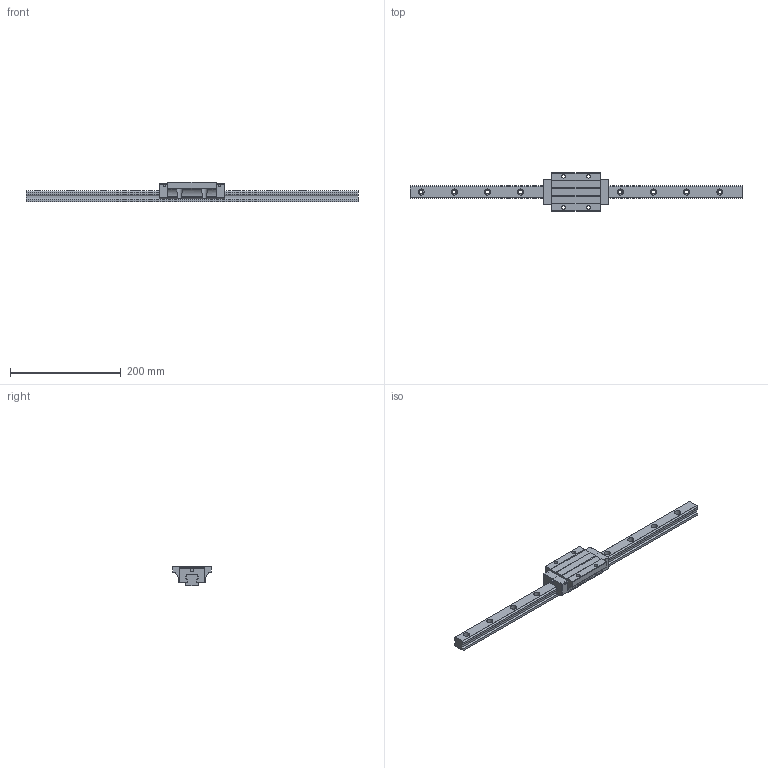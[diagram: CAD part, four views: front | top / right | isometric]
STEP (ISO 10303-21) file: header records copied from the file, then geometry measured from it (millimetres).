
FILE_DESCRIPTION (( 'STEP AP203' ), '1' );
FILE_NAME ('TRH25FE-ZN.STEP', '2024-05-14T06:58:18', ( '' ), ( '' ), 'SwSTEP 2.0', 'SolidWorks 2022', '' );
FILE_SCHEMA (( 'CONFIG_CONTROL_DESIGN' ));
Length unit declared in the file: millimetre
Products named in the file (1): TRH25FE-ZN
Bounding box: 600 x 70 x 36 mm (x, y, z)
Volume: 381866.5 mm3; surface area: 88297.9 mm2
Topology: 2 solids, 2 shells, 230 faces, 622 edges, 408 vertices
Faces by surface type: cylinder 130, plane 96, sphere 4
Entity records: 7873 total; most frequent: CARTESIAN_POINT 1819, DIRECTION 1274, ORIENTED_EDGE 1236, EDGE_CURVE 618, AXIS2_PLACEMENT_3D 459, VERTEX_POINT 408, VECTOR 356, LINE 356
